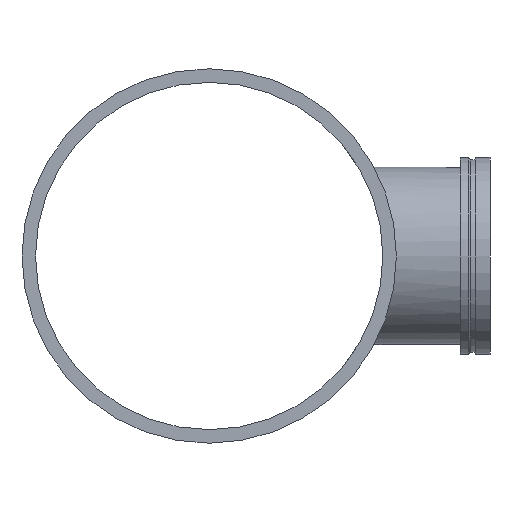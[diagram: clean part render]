
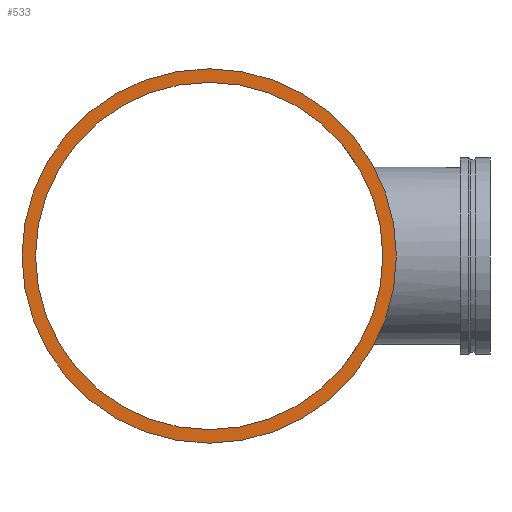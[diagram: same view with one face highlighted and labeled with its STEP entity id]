
A CAD part, left-side view. The second image highlights one B-rep face of the part: STEP entity #533.
In plain terms, the highlighted planar face has unit normal (-1, 0, 0).
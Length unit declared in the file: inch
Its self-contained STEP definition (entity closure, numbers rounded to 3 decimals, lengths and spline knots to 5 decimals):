
#58=FACE_BOUND('',#128,.T.);
#67=PLANE('',#626);
#92=FACE_OUTER_BOUND('',#127,.T.);
#127=EDGE_LOOP('',(#465,#466));
#128=EDGE_LOOP('',(#467,#468));
#151=CIRCLE('',#587,19.);
#152=CIRCLE('',#588,19.);
#175=CIRCLE('',#624,17.625);
#176=CIRCLE('',#625,17.625);
#239=VERTEX_POINT('',#1097);
#240=VERTEX_POINT('',#1099);
#263=VERTEX_POINT('',#1166);
#264=VERTEX_POINT('',#1168);
#299=EDGE_CURVE('',#239,#240,#151,.T.);
#300=EDGE_CURVE('',#240,#239,#152,.T.);
#331=EDGE_CURVE('',#264,#263,#175,.T.);
#332=EDGE_CURVE('',#263,#264,#176,.T.);
#465=ORIENTED_EDGE('',*,*,#300,.F.);
#466=ORIENTED_EDGE('',*,*,#299,.F.);
#467=ORIENTED_EDGE('',*,*,#331,.T.);
#468=ORIENTED_EDGE('',*,*,#332,.T.);
#533=ADVANCED_FACE('',(#92,#58),#67,.T.);
#587=AXIS2_PLACEMENT_3D('',#1100,#716,#717);
#588=AXIS2_PLACEMENT_3D('',#1101,#718,#719);
#624=AXIS2_PLACEMENT_3D('',#1169,#798,#799);
#625=AXIS2_PLACEMENT_3D('',#1170,#800,#801);
#626=AXIS2_PLACEMENT_3D('',#1171,#802,#803);
#716=DIRECTION('center_axis',(1.,0.,0.));
#717=DIRECTION('ref_axis',(0.,0.,1.));
#718=DIRECTION('center_axis',(1.,0.,0.));
#719=DIRECTION('ref_axis',(0.,0.,1.));
#798=DIRECTION('center_axis',(1.,0.,0.));
#799=DIRECTION('ref_axis',(0.,0.,1.));
#800=DIRECTION('center_axis',(1.,0.,0.));
#801=DIRECTION('ref_axis',(0.,0.,1.));
#802=DIRECTION('center_axis',(-1.,0.,0.));
#803=DIRECTION('ref_axis',(0.,0.,-1.));
#1097=CARTESIAN_POINT('',(-32.5,19.,0.));
#1099=CARTESIAN_POINT('',(-32.5,-19.,0.));
#1100=CARTESIAN_POINT('Origin',(-32.5,0.,0.));
#1101=CARTESIAN_POINT('Origin',(-32.5,0.,0.));
#1166=CARTESIAN_POINT('',(-32.5,17.625,0.));
#1168=CARTESIAN_POINT('',(-32.5,-17.625,0.));
#1169=CARTESIAN_POINT('Origin',(-32.5,0.,0.));
#1170=CARTESIAN_POINT('Origin',(-32.5,0.,0.));
#1171=CARTESIAN_POINT('Origin',(-32.5,-19.,0.));
